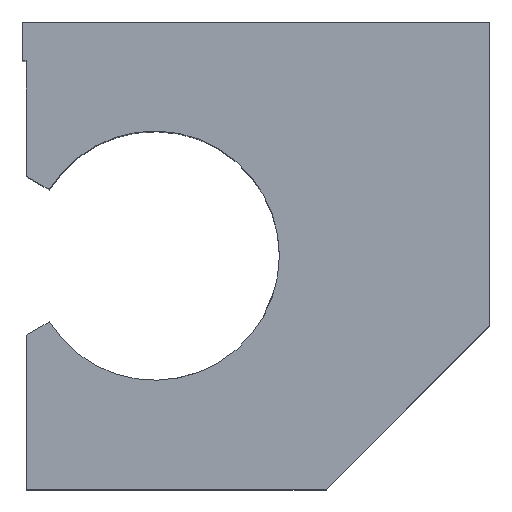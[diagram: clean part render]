
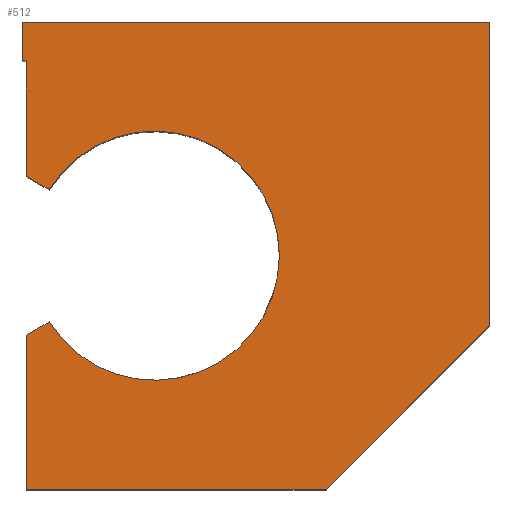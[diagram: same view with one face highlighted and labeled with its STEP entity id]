
A CAD part, top view. The second image highlights one B-rep face of the part: STEP entity #512.
In plain terms, the highlighted planar face has unit normal (0, 0, 1).
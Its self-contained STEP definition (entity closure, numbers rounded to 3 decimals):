
#29 = VECTOR ( 'NONE', #295, 1000. ) ;
#52 = VERTEX_POINT ( 'NONE', #812 ) ;
#79 = AXIS2_PLACEMENT_3D ( 'NONE', #232, #252, #1099 ) ;
#109 = CARTESIAN_POINT ( 'NONE',  ( -29.5, 10.2, 27. ) ) ;
#112 = CARTESIAN_POINT ( 'NONE',  ( -29.5, -10.2, 27. ) ) ;
#115 = LINE ( 'NONE', #334, #306 ) ;
#124 = LINE ( 'NONE', #988, #198 ) ;
#140 = LINE ( 'NONE', #356, #765 ) ;
#172 = AXIS2_PLACEMENT_3D ( 'NONE', #407, #1224, #918 ) ;
#176 = CARTESIAN_POINT ( 'NONE',  ( -29.5, 25., 27. ) ) ;
#182 = LINE ( 'NONE', #921, #29 ) ;
#190 = DIRECTION ( 'NONE',  ( 0., -1., 0. ) ) ;
#198 = VECTOR ( 'NONE', #968, 1000. ) ;
#232 = CARTESIAN_POINT ( 'NONE',  ( 0., 0., 27. ) ) ;
#252 = DIRECTION ( 'NONE',  ( 0., 0., 1. ) ) ;
#256 = VERTEX_POINT ( 'NONE', #1111 ) ;
#271 = DIRECTION ( 'NONE',  ( -1., 0., 0. ) ) ;
#285 = CIRCLE ( 'NONE', #719, 16. ) ;
#294 = DIRECTION ( 'NONE',  ( 1., 0., 0. ) ) ;
#295 = DIRECTION ( 'NONE',  ( 0.707, 0.707, 0. ) ) ;
#306 = VECTOR ( 'NONE', #1171, 1000. ) ;
#307 = CARTESIAN_POINT ( 'NONE',  ( 3., 0., 27. ) ) ;
#334 = CARTESIAN_POINT ( 'NONE',  ( -30., -30., 27. ) ) ;
#352 = VERTEX_POINT ( 'NONE', #1245 ) ;
#356 = CARTESIAN_POINT ( 'NONE',  ( -29.5, 25., 27. ) ) ;
#373 = VECTOR ( 'NONE', #1123, 1000. ) ;
#374 = ORIENTED_EDGE ( 'NONE', *, *, #1308, .T. ) ;
#375 = LINE ( 'NONE', #791, #985 ) ;
#382 = VERTEX_POINT ( 'NONE', #432 ) ;
#403 = LINE ( 'NONE', #526, #1230 ) ;
#407 = CARTESIAN_POINT ( 'NONE',  ( -13., 0., 27. ) ) ;
#409 = VERTEX_POINT ( 'NONE', #112 ) ;
#432 = CARTESIAN_POINT ( 'NONE',  ( 30., -9., 27. ) ) ;
#442 = EDGE_CURVE ( 'NONE', #409, #567, #993, .T. ) ;
#483 = VECTOR ( 'NONE', #190, 1000. ) ;
#489 = DIRECTION ( 'NONE',  ( 0., 0., 1. ) ) ;
#494 = EDGE_CURVE ( 'NONE', #663, #352, #140, .T. ) ;
#512 = ADVANCED_FACE ( 'NONE', ( #1173 ), #981, .T. ) ;
#526 = CARTESIAN_POINT ( 'NONE',  ( -29.5, 25., 27. ) ) ;
#548 = CIRCLE ( 'NONE', #172, 16. ) ;
#549 = DIRECTION ( 'NONE',  ( -1., 0., 0. ) ) ;
#567 = VERTEX_POINT ( 'NONE', #1072 ) ;
#573 = EDGE_LOOP ( 'NONE', ( #1218, #976, #766, #796, #792, #1201, #697, #826, #757, #374, #651, #1321 ) ) ;
#592 = LINE ( 'NONE', #882, #1139 ) ;
#627 = EDGE_CURVE ( 'NONE', #1206, #409, #124, .T. ) ;
#651 = ORIENTED_EDGE ( 'NONE', *, *, #1285, .T. ) ;
#653 = EDGE_CURVE ( 'NONE', #983, #1105, #285, .T. ) ;
#663 = VERTEX_POINT ( 'NONE', #176 ) ;
#680 = LINE ( 'NONE', #1117, #373 ) ;
#693 = VECTOR ( 'NONE', #1306, 1000. ) ;
#697 = ORIENTED_EDGE ( 'NONE', *, *, #627, .F. ) ;
#719 = AXIS2_PLACEMENT_3D ( 'NONE', #890, #489, #294 ) ;
#731 = EDGE_CURVE ( 'NONE', #1105, #871, #680, .T. ) ;
#736 = CARTESIAN_POINT ( 'NONE',  ( -26.555, 8.5, 27. ) ) ;
#757 = ORIENTED_EDGE ( 'NONE', *, *, #1003, .T. ) ;
#765 = VECTOR ( 'NONE', #549, 1000. ) ;
#766 = ORIENTED_EDGE ( 'NONE', *, *, #731, .F. ) ;
#774 = EDGE_CURVE ( 'NONE', #871, #663, #403, .T. ) ;
#791 = CARTESIAN_POINT ( 'NONE',  ( 30., 30., 27. ) ) ;
#792 = ORIENTED_EDGE ( 'NONE', *, *, #1365, .F. ) ;
#796 = ORIENTED_EDGE ( 'NONE', *, *, #653, .F. ) ;
#812 = CARTESIAN_POINT ( 'NONE',  ( -30., 30., 27. ) ) ;
#821 = VERTEX_POINT ( 'NONE', #835 ) ;
#826 = ORIENTED_EDGE ( 'NONE', *, *, #1220, .T. ) ;
#835 = CARTESIAN_POINT ( 'NONE',  ( 30., 30., 27. ) ) ;
#836 = LINE ( 'NONE', #1364, #483 ) ;
#858 = CARTESIAN_POINT ( 'NONE',  ( -30., -10.489, 27. ) ) ;
#871 = VERTEX_POINT ( 'NONE', #109 ) ;
#882 = CARTESIAN_POINT ( 'NONE',  ( -30., 30., 27. ) ) ;
#890 = CARTESIAN_POINT ( 'NONE',  ( -13., 0., 27. ) ) ;
#896 = DIRECTION ( 'NONE',  ( 0., 1., 0. ) ) ;
#918 = DIRECTION ( 'NONE',  ( 1., 0., 0. ) ) ;
#921 = CARTESIAN_POINT ( 'NONE',  ( 19.5, -19.5, 27. ) ) ;
#968 = DIRECTION ( 'NONE',  ( 0., 1., 0. ) ) ;
#976 = ORIENTED_EDGE ( 'NONE', *, *, #774, .F. ) ;
#981 = PLANE ( 'NONE',  #79 ) ;
#983 = VERTEX_POINT ( 'NONE', #307 ) ;
#985 = VECTOR ( 'NONE', #896, 1000. ) ;
#988 = CARTESIAN_POINT ( 'NONE',  ( -29.5, 25., 27. ) ) ;
#993 = LINE ( 'NONE', #858, #693 ) ;
#1003 = EDGE_CURVE ( 'NONE', #256, #382, #182, .T. ) ;
#1038 = EDGE_CURVE ( 'NONE', #52, #352, #836, .T. ) ;
#1064 = CARTESIAN_POINT ( 'NONE',  ( -29.5, -30., 27. ) ) ;
#1072 = CARTESIAN_POINT ( 'NONE',  ( -26.555, -8.5, 27. ) ) ;
#1099 = DIRECTION ( 'NONE',  ( 1., 0., 0. ) ) ;
#1105 = VERTEX_POINT ( 'NONE', #736 ) ;
#1111 = CARTESIAN_POINT ( 'NONE',  ( 9., -30., 27. ) ) ;
#1117 = CARTESIAN_POINT ( 'NONE',  ( -26.555, 8.5, 27. ) ) ;
#1123 = DIRECTION ( 'NONE',  ( -0.866, 0.5, 0. ) ) ;
#1139 = VECTOR ( 'NONE', #271, 1000. ) ;
#1171 = DIRECTION ( 'NONE',  ( 1., 0., 0. ) ) ;
#1173 = FACE_OUTER_BOUND ( 'NONE', #573, .T. ) ;
#1201 = ORIENTED_EDGE ( 'NONE', *, *, #442, .F. ) ;
#1206 = VERTEX_POINT ( 'NONE', #1064 ) ;
#1218 = ORIENTED_EDGE ( 'NONE', *, *, #494, .F. ) ;
#1220 = EDGE_CURVE ( 'NONE', #1206, #256, #115, .T. ) ;
#1224 = DIRECTION ( 'NONE',  ( 0., 0., 1. ) ) ;
#1230 = VECTOR ( 'NONE', #1372, 1000. ) ;
#1245 = CARTESIAN_POINT ( 'NONE',  ( -30., 25., 27. ) ) ;
#1285 = EDGE_CURVE ( 'NONE', #821, #52, #592, .T. ) ;
#1306 = DIRECTION ( 'NONE',  ( 0.866, 0.5, 0. ) ) ;
#1308 = EDGE_CURVE ( 'NONE', #382, #821, #375, .T. ) ;
#1321 = ORIENTED_EDGE ( 'NONE', *, *, #1038, .T. ) ;
#1364 = CARTESIAN_POINT ( 'NONE',  ( -30., 30., 27. ) ) ;
#1365 = EDGE_CURVE ( 'NONE', #567, #983, #548, .T. ) ;
#1372 = DIRECTION ( 'NONE',  ( 0., 1., 0. ) ) ;
